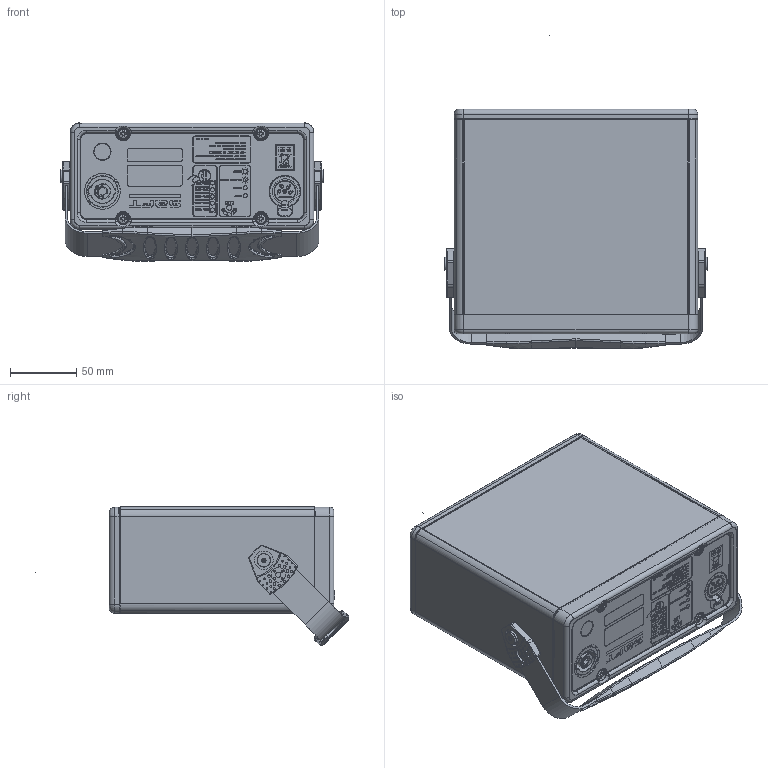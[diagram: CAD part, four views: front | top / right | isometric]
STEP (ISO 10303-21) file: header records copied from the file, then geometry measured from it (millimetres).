
FILE_DESCRIPTION (( 'STEP AP214' ), '1' );
FILE_NAME ('ezB24V09AH-260521.STEP', '2021-05-26T07:52:38', ( '' ), ( '' ), 'SwSTEP 2.0', 'SolidWorks 2021', '' );
FILE_SCHEMA (( 'AUTOMOTIVE_DESIGN' ));
Length unit declared in the file: millimetre
Products named in the file (1): ezB24V09AH-260521
Bounding box: 199.7 x 237.4 x 104.94 mm (x, y, z)
Surface area: 151515.2 mm2 (no closed solid volume)
Topology: 0 solids, 23 shells, 8987 faces, 25525 edges, 17097 vertices
Faces by surface type: plane 8035, cylinder 653, bspline 149, torus 103, cone 39, sphere 8
Entity records: 439131 total; most frequent: CARTESIAN_POINT 155743, ORIENTED_EDGE 50932, EDGE_CURVE 25506, B_SPLINE_CURVE_WITH_KNOTS 24568, DIRECTION 18970, VERTEX_POINT 17097, EDGE_LOOP 9547, AXIS2_PLACEMENT_3D 9311
